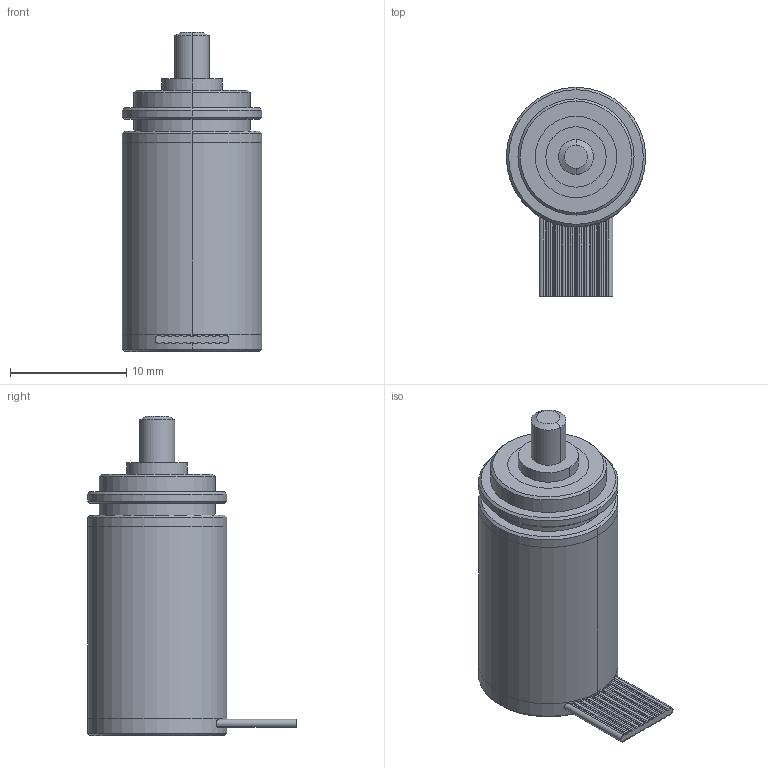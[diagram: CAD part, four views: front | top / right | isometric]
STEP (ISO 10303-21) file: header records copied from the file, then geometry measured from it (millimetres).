
FILE_DESCRIPTION (( 'STEP AP203' ), '1' );
FILE_NAME ('ËÈÐ-112A (Âàë 3 ìì).STEP', '2014-07-21T07:44:57', ( '' ), ( '' ), 'SwSTEP 2.0', 'SolidWorks 2013', '' );
FILE_SCHEMA (( 'CONFIG_CONTROL_DESIGN' ));
Length unit declared in the file: millimetre
Products named in the file (1): ËÈÐ-112A (Âàë 3 ìì)
Bounding box: 12 x 18 x 27.5 mm (x, y, z)
Volume: 2527.9 mm3; surface area: 1854 mm2
Topology: 4 solids, 4 shells, 136 faces, 351 edges, 230 vertices
Faces by surface type: cylinder 90, plane 34, cone 12
Entity records: 4396 total; most frequent: CARTESIAN_POINT 986, DIRECTION 705, ORIENTED_EDGE 702, EDGE_CURVE 351, AXIS2_PLACEMENT_3D 283, VERTEX_POINT 230, CIRCLE 146, EDGE_LOOP 145
